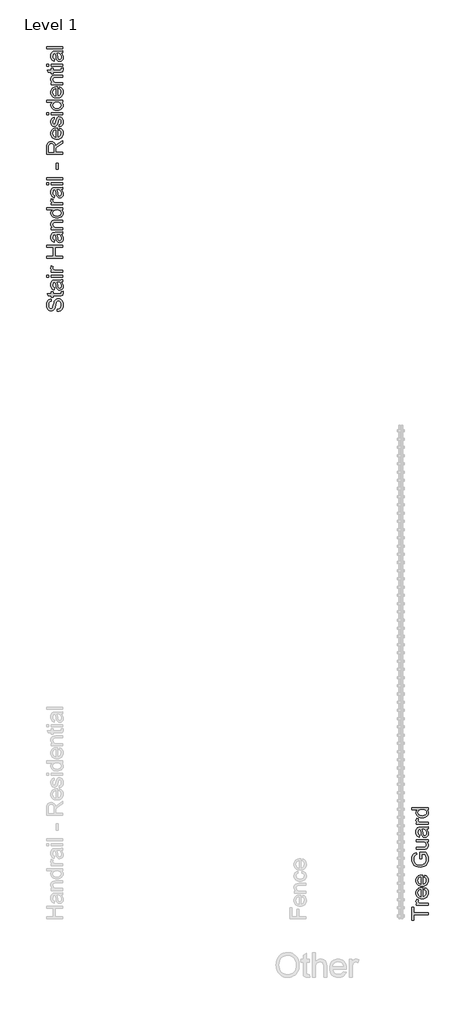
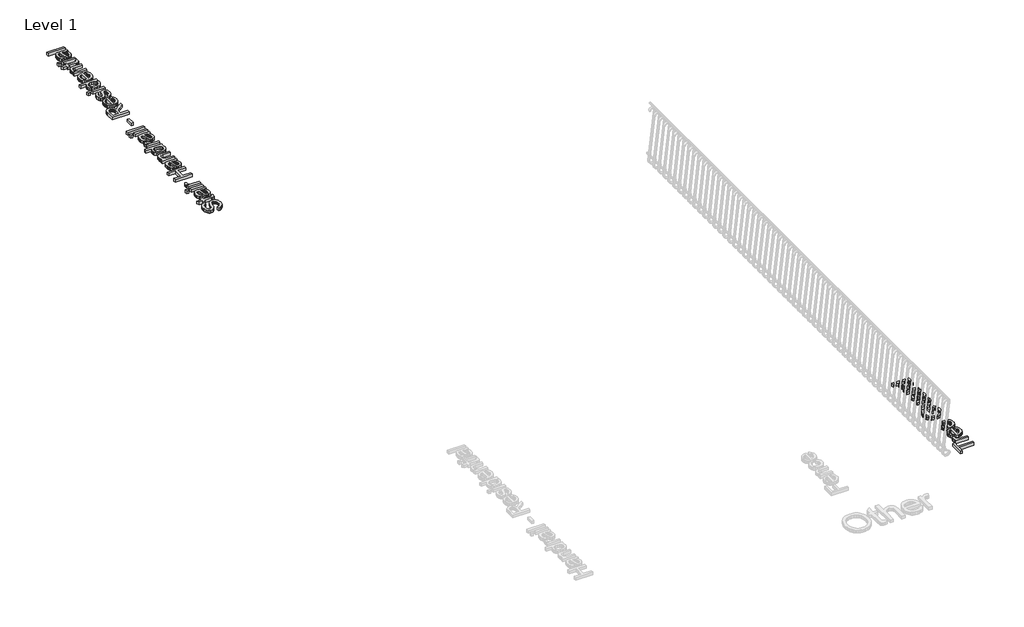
# One storey, part 14 of 14: 2 proxies.
"""IFC4 building model written with IfcOpenShell, lengths in millimetres."""

from ifc_helpers import new_model, si_unit, origin, origin_with_axes, place, context, project, spatial, polyline, outline, extrude, element, save

model = new_model("IFC4")

# Units and contexts
model_context = context("Model", 3, world=origin())
ifc_project = project(units=[si_unit("LENGTHUNIT", "METRE", prefix="MILLI")], contexts=[model_context])

# Site, building, storey
site = spatial("IfcSite", under=ifc_project)
building = spatial("IfcBuilding", under=site)
storey = spatial("IfcBuildingStorey", under=building, Name="Level 1", Elevation=0.0)

# Proxies
placement = place(None, origin())
element("IfcBuildingElementProxy", 1, Name="12\" Arial", ObjectType="12\" Arial", at=placement, inside=storey, context=model_context, shape_type="SweptSolid", body=[
    extrude(outline(polyline([(10427.4066928, -14416.3411589), (10164.8097698, -14416.3411589), (10164.8097698, -14514.8150051), (10127.2959236, -14514.8150051), (10127.2959236, -14280.3534666), (10164.8097698, -14280.3534666), (10164.8097698, -14378.8273128), (10427.4066928, -14378.8273128), (10427.4066928, -14416.3411589)])), origin_with_axes(), (0.0, 0.0, 1.0), 50.8),
    extrude(outline(polyline([(10427.4066928, -14242.8396205), (10207.0128467, -14242.8396205), (10207.0128467, -14210.0150051), (10239.6176544, -14210.0150051), (10220.7141928, -14197.8889474), (10209.5772698, -14186.7153897), (10204.1370294, -14175.5051974), (10202.3236159, -14163.2692359), (10205.2177505, -14144.585582), (10213.9001544, -14125.6088513), (10247.5307313, -14138.1378897), (10241.7607794, -14151.3263513), (10239.8374621, -14164.5148128), (10241.6875102, -14175.7158464), (10247.2376544, -14185.7262551), (10256.0665967, -14193.8133464), (10267.753039, -14199.2444282), (10288.708039, -14203.8054378), (10311.568039, -14205.3257743), (10427.4066928, -14205.3257743), (10427.4066928, -14242.8396205)])), origin_with_axes(), (0.0, 0.0, 1.0), 50.8),
    extrude(outline(polyline([(10361.7574621, -13947.8576974), (10366.4466928, -13911.0765436), (10394.1607794, -13924.3291157), (10414.8776544, -13945.4764474), (10427.7913563, -13974.0422888), (10432.0959236, -14009.5503897), (10430.2390066, -14032.8271085), (10424.6682553, -14053.5668801), (10415.38367, -14071.7697046), (10402.3852505, -14087.435582), (10386.0347638, -14100.0333104), (10366.6939765, -14109.0316878), (10344.3628888, -14114.4307142), (10319.0415005, -14116.2303897), (10292.8614885, -14114.4123969), (10269.7862602, -14108.9584186), (10249.8158154, -14099.8684546), (10232.9501544, -14087.1425051), (10219.5510438, -14071.5178416), (10209.9802505, -14053.7317359), (10204.2377746, -14033.7841878), (10202.3236159, -14011.6751974), (10204.2331953, -13990.2782924), (10209.9619332, -13970.9283464), (10219.5098299, -13953.6253597), (10232.8768852, -13938.369332), (10249.7059116, -13925.9158525), (10269.6397217, -13917.0205099), (10292.6783154, -13911.6833044), (10318.8216928, -13909.9042359), (10328.9328467, -13910.1240436), (10328.9328467, -14078.7165436), (10357.0132794, -14072.223058), (10377.6568852, -14057.1387551), (10390.3507794, -14035.3686349), (10394.5820775, -14008.8176974), (10392.6221255, -13988.851832), (10386.7422698, -13972.0365436), (10376.576164, -13958.371832), (10361.7574621, -13947.8576974)]), holes=[polyline([(10291.4190005, -14078.7165436), (10291.4190005, -13947.418082), (10271.5996736, -13952.4919763), (10257.4220775, -13962.4382743), (10244.2336159, -13984.3091397), (10239.8374621, -14011.8217359), (10243.3452265, -14037.1087791), (10253.8685198, -14058.0179859), (10270.2716688, -14072.5527695), (10291.4190005, -14078.7165436)])]), origin_with_axes(), (0.0, 0.0, 1.0), 50.8),
    extrude(outline(polyline([(10361.7574621, -13718.0853897), (10366.4466928, -13681.3042359), (10394.1607794, -13694.556808), (10414.8776544, -13715.7041397), (10427.7913563, -13744.2699811), (10432.0959236, -13779.778082), (10430.2390066, -13803.0548008), (10424.6682553, -13823.7945724), (10415.38367, -13841.9973969), (10402.3852505, -13857.6632743), (10386.0347638, -13870.2610027), (10366.6939765, -13879.2593801), (10344.3628888, -13884.6584065), (10319.0415005, -13886.458082), (10292.8614885, -13884.6400892), (10269.7862602, -13879.1861109), (10249.8158154, -13870.0961469), (10232.9501544, -13857.3701974), (10219.5510438, -13841.7455339), (10209.9802505, -13823.9594282), (10204.2377746, -13804.0118801), (10202.3236159, -13781.9028897), (10204.2331953, -13760.5059847), (10209.9619332, -13741.1560388), (10219.5098299, -13723.853052), (10232.8768852, -13708.5970243), (10249.7059116, -13696.1435448), (10269.6397217, -13687.2482022), (10292.6783154, -13681.9109967), (10318.8216928, -13680.1319282), (10328.9328467, -13680.3517359), (10328.9328467, -13848.9442359), (10357.0132794, -13842.4507503), (10377.6568852, -13827.3664474), (10390.3507794, -13805.5963272), (10394.5820775, -13779.0453897), (10392.6221255, -13759.0795243), (10386.7422698, -13742.2642359), (10376.576164, -13728.5995243), (10361.7574621, -13718.0853897)]), holes=[polyline([(10291.4190005, -13848.9442359), (10291.4190005, -13717.6457743), (10271.5996736, -13722.7196686), (10257.4220775, -13732.6659666), (10244.2336159, -13754.536832), (10239.8374621, -13782.0494282), (10243.3452265, -13807.3364714), (10253.8685198, -13828.2456782), (10270.2716688, -13842.7804618), (10291.4190005, -13848.9442359)])]), origin_with_axes(), (0.0, 0.0, 1.0), 50.8),
    extrude(outline(polyline([(10310.1759236, -13380.0211589), (10272.6620775, -13380.0211589), (10272.6620775, -13258.1011589), (10384.8372698, -13258.1011589), (10405.4442409, -13287.7294041), (10420.2263082, -13318.291832), (10429.1285198, -13349.7151734), (10432.0959236, -13381.9261589), (10427.3792169, -13424.0101734), (10413.2290967, -13462.0460628), (10390.1401303, -13493.6434186), (10358.6068852, -13516.411832), (10320.7816448, -13530.1772888), (10278.8166928, -13534.7657743), (10236.5495053, -13530.1956061), (10197.2314044, -13516.4851013), (10164.2510919, -13494.2020964), (10140.9972698, -13463.9144282), (10127.2043371, -13427.0233705), (10122.6066928, -13384.9301974), (10125.2718611, -13354.0288993), (10133.2673659, -13326.2415436), (10146.0162121, -13302.841183), (10162.9414044, -13285.1008705), (10184.858063, -13271.9765195), (10212.5813082, -13262.4240436), (10222.3261159, -13297.0071205), (10202.5525823, -13304.7278657), (10187.6331352, -13314.1154859), (10176.3863082, -13326.5346205), (10167.6306352, -13343.3499089), (10161.998063, -13363.3982022), (10160.120539, -13385.5163513), (10162.1446015, -13411.4078657), (10168.216789, -13433.544332), (10177.5769332, -13451.8433224), (10189.4648659, -13466.2224089), (10218.3695775, -13485.5288513), (10246.6881352, -13494.3211589), (10277.278039, -13497.2519282), (10313.1524861, -13493.7258464), (10342.6708275, -13483.1476013), (10365.622414, -13465.8377455), (10381.7965967, -13442.116832), (10391.3857073, -13414.3569522), (10394.5820775, -13384.9301974), (10392.1733515, -13358.9470964), (10384.9471736, -13333.6051013), (10374.9917169, -13311.5968561), (10364.3951544, -13295.6150051), (10310.1759236, -13295.6150051), (10310.1759236, -13380.0211589)])), origin_with_axes(), (0.0, 0.0, 1.0), 50.8),
    extrude(outline(polyline([(10427.4066928, -13061.1534666), (10389.5265005, -13061.1534666), (10408.1506231, -13074.7265916), (10421.4535678, -13090.5344282), (10429.4353347, -13108.5769763), (10432.0959236, -13128.8542359), (10430.2275582, -13147.1257503), (10424.6224621, -13164.1333705), (10416.1965005, -13178.4025532), (10405.865539, -13188.4587551), (10378.243039, -13199.6323128), (10343.3668852, -13201.8303897), (10207.0128467, -13201.8303897), (10207.0128467, -13164.3165436), (10325.7090005, -13164.3165436), (10363.955539, -13162.0451974), (10376.7135438, -13156.5774811), (10386.4125582, -13147.2081782), (10392.5396977, -13134.5600772), (10394.5820775, -13119.2559666), (10392.4939044, -13103.0726253), (10386.2293852, -13087.9333705), (10376.365515, -13075.4501253), (10363.479289, -13067.2348128), (10345.830563, -13062.6738032), (10321.6791928, -13061.1534666), (10207.0128467, -13061.1534666), (10207.0128467, -13023.6396205), (10427.4066928, -13023.6396205), (10427.4066928, -13061.1534666)])), origin_with_axes(), (0.0, 0.0, 1.0), 50.8),
    extrude(outline(polyline([(10399.2713082, -12831.3811589), (10414.6395294, -12849.3046445), (10424.6957313, -12867.759332), (10430.2458755, -12887.1665195), (10432.0959236, -12907.9475051), (10427.6448178, -12939.2975772), (10414.2915005, -12962.4231782), (10394.0142409, -12976.6832022), (10368.7913082, -12981.4365436), (10353.239914, -12979.6414474), (10339.1172698, -12974.2561589), (10327.0278467, -12965.9492599), (10317.5761159, -12955.389332), (10305.2668852, -12929.1223128), (10299.6251544, -12896.6640436), (10293.6903467, -12858.3076013), (10286.7297698, -12831.6009666), (10278.3770775, -12831.3811589), (10261.6350582, -12833.9638993), (10250.6813082, -12841.7121205), (10242.5484236, -12859.0402936), (10239.8374621, -12883.1825051), (10241.6417169, -12905.5296205), (10247.0544813, -12921.1359666), (10257.06489, -12931.7783224), (10272.6620775, -12939.2334666), (10267.9728467, -12976.7473128), (10247.4574621, -12970.2355099), (10231.3382313, -12960.5181782), (10219.0106832, -12946.6886109), (10209.8703467, -12927.8401013), (10204.2102986, -12904.7877695), (10202.3236159, -12878.3467359), (10203.9904909, -12852.9864234), (10208.9911159, -12832.8831782), (10216.5103707, -12817.7256061), (10225.7331352, -12807.2023128), (10237.1356592, -12800.2234186), (10251.1941928, -12795.6990436), (10284.0188082, -12793.8673128), (10330.6913082, -12793.8673128), (10395.864289, -12791.9623128), (10427.4066928, -12784.4888513), (10427.4066928, -12822.0026974), (10399.2713082, -12831.3811589)]), holes=[polyline([(10324.2436159, -12831.3811589), (10335.7468852, -12891.9015436), (10341.8282313, -12924.1766397), (10351.7195775, -12938.7938513), (10366.1536159, -12943.9226974), (10377.3088563, -12941.129308), (10386.4491928, -12932.7491397), (10392.5488563, -12918.9653657), (10394.5820775, -12899.9611589), (10392.3382073, -12879.8121205), (10385.6065967, -12862.0076974), (10375.6877746, -12847.5736589), (10363.8822698, -12837.5357743), (10351.7195775, -12833.0846686), (10334.8676544, -12831.6009666), (10324.2436159, -12831.3811589)])]), origin_with_axes(), (0.0, 0.0, 1.0), 50.8),
    extrude(outline(polyline([(10427.4066928, -12742.2857743), (10207.0128467, -12742.2857743), (10207.0128467, -12709.4611589), (10239.6176544, -12709.4611589), (10220.7141928, -12697.3351013), (10209.5772698, -12686.1615436), (10204.1370294, -12674.9513513), (10202.3236159, -12662.7153897), (10205.2177505, -12644.0317359), (10213.9001544, -12625.0550051), (10247.5307313, -12637.5840436), (10241.7607794, -12650.7725051), (10239.8374621, -12663.9609666), (10241.6875102, -12675.1620003), (10247.2376544, -12685.1724089), (10256.0665967, -12693.2595003), (10267.753039, -12698.690582), (10288.708039, -12703.2515916), (10311.568039, -12704.7719282), (10427.4066928, -12704.7719282), (10427.4066928, -12742.2857743)])), origin_with_axes(), (0.0, 0.0, 1.0), 50.8),
    extrude(outline(polyline([(10427.4066928, -12465.6211589), (10392.0176544, -12465.6211589), (10409.5518972, -12476.8450892), (10422.0763563, -12490.4411109), (10429.5910318, -12506.4092239), (10432.0959236, -12524.7494282), (10428.4690967, -12549.0015436), (10417.5886159, -12571.2021205), (10400.2146496, -12589.9956782), (10377.1073659, -12604.0267359), (10349.2009477, -12612.7640916), (10317.4295775, -12615.6765436), (10286.0520294, -12612.993058), (10257.7151544, -12604.9426013), (10234.0308755, -12591.534332), (10216.6111159, -12572.7774089), (10205.8954909, -12550.0914234), (10202.3236159, -12524.8959666), (10204.8788803, -12506.5420243), (10212.5446736, -12490.3128897), (10224.2952265, -12476.5565916), (10239.1047698, -12465.6211589), (10127.2959236, -12465.6211589), (10127.2959236, -12428.1073128), (10427.4066928, -12428.1073128), (10427.4066928, -12465.6211589)]), holes=[polyline([(10317.283039, -12578.1626974), (10351.2158515, -12573.9313993), (10375.3489044, -12561.2375051), (10389.7737842, -12542.7919763), (10394.5820775, -12521.3057743), (10389.9935919, -12499.8287311), (10376.2281352, -12481.8502936), (10353.029265, -12469.6784426), (10320.140539, -12465.6211589), (10284.183664, -12469.7517118), (10259.2538082, -12482.1433705), (10244.6915486, -12500.5797407), (10239.8374621, -12522.8444282), (10244.4992169, -12544.5504378), (10258.4844813, -12562.3365436), (10282.5076303, -12574.2061589), (10317.283039, -12578.1626974)])]), origin_with_axes(), (0.0, 0.0, 1.0), 50.8),
])
element("IfcBuildingElementProxy", 2, Name="12\" Arial", ObjectType="12\" Arial", at=placement, inside=storey, context=model_context, shape_type="SweptSolid", body=[
    extrude(outline(polyline([(3548.154783, -3231.2378994), (3548.154783, -3193.7240533), (3568.9724032, -3189.419486), (3585.7052637, -3181.6346302), (3598.9853118, -3169.4902552), (3609.4444945, -3152.1071302), (3616.231057, -3130.8590533), (3618.4932445, -3107.1198225), (3616.7805762, -3086.2197744), (3611.6425714, -3067.9207841), (3603.5096868, -3053.0929235), (3592.8123791, -3042.6062648), (3580.5306243, -3036.3692216), (3567.6443984, -3034.2902071), (3555.0878839, -3035.8471783), (3544.2348791, -3040.5180917), (3534.9754801, -3050.0064571), (3527.199783, -3066.0157841), (3512.8756484, -3120.6379956), (3503.3964416, -3156.4941254), (3494.3751676, -3179.4365533), (3481.7545426, -3198.1110485), (3466.4595907, -3211.3453033), (3448.8200234, -3219.2309042), (3429.1655522, -3221.8594379), (3407.1939416, -3218.6081158), (3386.706033, -3208.8541494), (3369.3412253, -3192.8539812), (3356.7389176, -3170.8640533), (3349.0731243, -3144.4688129), (3346.5178599, -3115.2527071), (3349.1921868, -3083.6003994), (3357.2151676, -3055.9046302), (3370.4219464, -3033.1545341), (3388.6476676, -3016.3392456), (3410.756658, -3005.6968898), (3435.6132445, -3001.4655917), (3435.6132445, -3038.9794379), (3413.2294945, -3045.8667456), (3397.0736291, -3060.2275148), (3387.2921868, -3082.6662167), (3384.0317061, -3113.7873225), (3387.2555522, -3145.6411206), (3396.9270907, -3167.4936687), (3411.1596387, -3180.132611), (3428.0665137, -3184.3455917), (3442.4822349, -3181.3598706), (3454.0770907, -3172.4027071), (3464.4446868, -3151.2278994), (3475.0320907, -3111.1496302), (3485.0882926, -3069.7891494), (3493.862283, -3044.7677071), (3507.4720426, -3023.3822504), (3524.2690137, -3008.4628033), (3544.0700234, -2999.6979716), (3566.6918984, -2996.776361), (3589.8174993, -3000.1375869), (3611.5693022, -3010.2212648), (3630.2895907, -3026.6152552), (3644.3206484, -3048.9074187), (3653.0854801, -3075.7147985), (3656.0070907, -3105.6544379), (3652.8565137, -3142.4081158), (3643.404783, -3172.6591494), (3627.6152637, -3196.7555677), (3605.4513214, -3215.0453994), (3578.4516099, -3226.7867937), (3548.154783, -3231.2378994)])), origin_with_axes(), (0.0, 0.0, 1.0), 50.8),
    extrude(outline(polyline([(3620.0318984, -2865.4778994), (3652.4168984, -2860.7886687), (3656.0070907, -2888.8507841), (3654.4501195, -2906.8566975), (3649.7792061, -2920.2832841), (3642.5805041, -2929.7716494), (3633.4401676, -2935.9628994), (3617.7422349, -2939.3699187), (3590.8707445, -2940.5055917), (3468.4378599, -2940.5055917), (3468.4378599, -2968.6409764), (3430.9240137, -2968.6409764), (3430.9240137, -2940.5055917), (3377.3642061, -2940.5055917), (3355.3101676, -2902.9917456), (3430.9240137, -2902.9917456), (3430.9240137, -2865.4778994), (3468.4378599, -2865.4778994), (3468.4378599, -2902.9917456), (3589.7717061, -2902.9917456), (3609.114783, -2901.0134764), (3615.9654561, -2894.6024187), (3618.4932445, -2881.8169379), (3620.0318984, -2865.4778994)])), origin_with_axes(), (0.0, 0.0, 1.0), 50.8),
    extrude(outline(polyline([(3623.1824753, -2687.2871302), (3638.5506964, -2705.2106158), (3648.6068984, -2723.6653033), (3654.1570426, -2743.0724908), (3656.0070907, -2763.8534764), (3651.5559849, -2795.2035485), (3638.2026676, -2818.3291494), (3617.925408, -2832.5891735), (3592.7024753, -2837.3425148), (3577.1510811, -2835.5474187), (3563.0284368, -2830.1621302), (3550.9390137, -2821.8552312), (3541.487283, -2811.2953033), (3529.1780522, -2785.0282841), (3523.5363214, -2752.5700148), (3517.6015137, -2714.2135725), (3510.6409368, -2687.5069379), (3502.2882445, -2687.2871302), (3485.5462253, -2689.8698706), (3474.5924753, -2697.6180917), (3466.4595907, -2714.9462648), (3463.7486291, -2739.0884764), (3465.5528839, -2761.4355917), (3470.9656484, -2777.0419379), (3480.976057, -2787.6842937), (3496.5732445, -2795.1394379), (3491.8840137, -2832.6532841), (3471.3686291, -2826.1414812), (3455.2493984, -2816.4241494), (3442.9218503, -2802.5945821), (3433.7815137, -2783.7460725), (3428.1214657, -2760.6937408), (3426.234783, -2734.2527071), (3427.901658, -2708.8923946), (3432.902283, -2688.7891494), (3440.4215378, -2673.6315773), (3449.6443022, -2663.1082841), (3461.0468262, -2656.1293898), (3475.1053599, -2651.6050148), (3507.9299753, -2649.7732841), (3554.6024753, -2649.7732841), (3619.7754561, -2647.8682841), (3651.3178599, -2640.3948225), (3651.3178599, -2677.9086687), (3623.1824753, -2687.2871302)]), holes=[polyline([(3548.154783, -2687.2871302), (3559.6580522, -2747.8075148), (3565.7393984, -2780.082611), (3575.6307445, -2794.6998225), (3590.064783, -2799.8286687), (3601.2200234, -2797.0352792), (3610.3603599, -2788.655111), (3616.4600234, -2774.8713369), (3618.4932445, -2755.8671302), (3616.2493743, -2735.7180917), (3609.5177637, -2717.9136687), (3599.5989416, -2703.4796302), (3587.7934368, -2693.4417456), (3575.6307445, -2688.9906398), (3558.7788214, -2687.5069379), (3548.154783, -2687.2871302)])]), origin_with_axes(), (0.0, 0.0, 1.0), 50.8),
    extrude(outline(polyline([(3388.7209368, -2598.1917456), (3351.2070907, -2598.1917456), (3351.2070907, -2560.6778994), (3388.7209368, -2560.6778994), (3388.7209368, -2598.1917456)])), origin_with_axes(), (0.0, 0.0, 1.0), 50.8),
    extrude(outline(polyline([(3651.3178599, -2598.1917456), (3430.9240137, -2598.1917456), (3430.9240137, -2560.6778994), (3651.3178599, -2560.6778994), (3651.3178599, -2598.1917456)])), origin_with_axes(), (0.0, 0.0, 1.0), 50.8),
    extrude(outline(polyline([(3651.3178599, -2504.4071302), (3430.9240137, -2504.4071302), (3430.9240137, -2471.5825148), (3463.5288214, -2471.5825148), (3444.6253599, -2459.4564571), (3433.4884368, -2448.2828994), (3428.0481964, -2437.0727071), (3426.234783, -2424.8367456), (3429.1289176, -2406.1530917), (3437.8113214, -2387.176361), (3471.4418984, -2399.7053994), (3465.6719464, -2412.893861), (3463.7486291, -2426.0823225), (3465.5986772, -2437.2833562), (3471.1488214, -2447.2937648), (3479.9777637, -2455.3808562), (3491.6642061, -2460.8119379), (3512.6192061, -2465.3729475), (3535.4792061, -2466.8932841), (3651.3178599, -2466.8932841), (3651.3178599, -2504.4071302)])), origin_with_axes(), (0.0, 0.0, 1.0), 50.8),
    extrude(outline(polyline([(3651.3178599, -2241.8102071), (3351.2070907, -2241.8102071), (3351.2070907, -2204.296361), (3473.1270907, -2204.296361), (3473.1270907, -2044.8625148), (3351.2070907, -2044.8625148), (3351.2070907, -2007.3486687), (3651.3178599, -2007.3486687), (3651.3178599, -2044.8625148), (3510.6409368, -2044.8625148), (3510.6409368, -2204.296361), (3651.3178599, -2204.296361), (3651.3178599, -2241.8102071)])), origin_with_axes(), (0.0, 0.0, 1.0), 50.8),
    extrude(outline(polyline([(3623.1824753, -1805.7117456), (3638.5506964, -1823.6352312), (3648.6068984, -1842.0899187), (3654.1570426, -1861.4971062), (3656.0070907, -1882.2780917), (3651.5559849, -1913.6281639), (3638.2026676, -1936.7537648), (3617.925408, -1951.0137889), (3592.7024753, -1955.7671302), (3577.1510811, -1953.9720341), (3563.0284368, -1948.5867456), (3550.9390137, -1940.2798466), (3541.487283, -1929.7199187), (3529.1780522, -1903.4528994), (3523.5363214, -1870.9946302), (3517.6015137, -1832.6381879), (3510.6409368, -1805.9315533), (3502.2882445, -1805.7117456), (3485.5462253, -1808.294486), (3474.5924753, -1816.0427071), (3466.4595907, -1833.3708802), (3463.7486291, -1857.5130917), (3465.5528839, -1879.8602071), (3470.9656484, -1895.4665533), (3480.976057, -1906.1089091), (3496.5732445, -1913.5640533), (3491.8840137, -1951.0778994), (3471.3686291, -1944.5660966), (3455.2493984, -1934.8487648), (3442.9218503, -1921.0191975), (3433.7815137, -1902.1706879), (3428.1214657, -1879.1183562), (3426.234783, -1852.6773225), (3427.901658, -1827.31701), (3432.902283, -1807.2137648), (3440.4215378, -1792.0561927), (3449.6443022, -1781.5328994), (3461.0468262, -1774.5540052), (3475.1053599, -1770.0296302), (3507.9299753, -1768.1978994), (3554.6024753, -1768.1978994), (3619.7754561, -1766.2928994), (3651.3178599, -1758.8194379), (3651.3178599, -1796.3332841), (3623.1824753, -1805.7117456)]), holes=[polyline([(3548.154783, -1805.7117456), (3559.6580522, -1866.2321302), (3565.7393984, -1898.5072264), (3575.6307445, -1913.1244379), (3590.064783, -1918.2532841), (3601.2200234, -1915.4598946), (3610.3603599, -1907.0797264), (3616.4600234, -1893.2959523), (3618.4932445, -1874.2917456), (3616.2493743, -1854.1427071), (3609.5177637, -1836.3382841), (3599.5989416, -1821.9042456), (3587.7934368, -1811.866361), (3575.6307445, -1807.4152552), (3558.7788214, -1805.9315533), (3548.154783, -1805.7117456)])]), origin_with_axes(), (0.0, 0.0, 1.0), 50.8),
    extrude(outline(polyline([(3651.3178599, -1716.616361), (3430.9240137, -1716.616361), (3430.9240137, -1679.1025148), (3461.6970907, -1679.1025148), (3446.1823311, -1666.0697504), (3435.1003599, -1650.417611), (3428.4511772, -1632.1460966), (3426.234783, -1611.2552071), (3428.0207205, -1592.763885), (3433.378533, -1575.8295341), (3441.6396387, -1561.7068898), (3452.1354561, -1551.6506879), (3479.7213214, -1540.403861), (3515.9895907, -1538.4255917), (3651.3178599, -1538.4255917), (3651.3178599, -1575.9394379), (3521.0451676, -1575.9394379), (3487.8542061, -1580.2623225), (3477.9720186, -1586.2429235), (3470.3062253, -1595.5389571), (3465.3880282, -1607.4543658), (3463.7486291, -1621.2930917), (3467.430408, -1643.2647023), (3478.4757445, -1661.9941494), (3487.4924392, -1669.4790593), (3499.815408, -1674.8254235), (3534.3801676, -1679.1025148), (3651.3178599, -1679.1025148), (3651.3178599, -1716.616361)])), origin_with_axes(), (0.0, 0.0, 1.0), 50.8),
    extrude(outline(polyline([(3651.3178599, -1350.856361), (3615.9288214, -1350.856361), (3633.4630642, -1362.0802913), (3645.9875234, -1375.6763129), (3653.5021988, -1391.6444259), (3656.0070907, -1409.9846302), (3652.3802637, -1434.2367456), (3641.499783, -1456.4373225), (3624.1258166, -1475.2308802), (3601.018533, -1489.2619379), (3573.1121147, -1497.9992937), (3541.3407445, -1500.9117456), (3509.9631964, -1498.22826), (3481.6263214, -1490.1778033), (3457.9420426, -1476.7695341), (3440.522283, -1458.012611), (3429.806658, -1435.3266254), (3426.234783, -1410.1311687), (3428.7900474, -1391.7772264), (3436.4558407, -1375.5480917), (3448.2063936, -1361.7917937), (3463.0159368, -1350.856361), (3351.2070907, -1350.856361), (3351.2070907, -1313.3425148), (3651.3178599, -1313.3425148), (3651.3178599, -1350.856361)]), holes=[polyline([(3541.1942061, -1463.3978994), (3575.1270186, -1459.1666014), (3599.2600714, -1446.4727071), (3613.6849512, -1428.0271783), (3618.4932445, -1406.5409764), (3613.9047589, -1385.0639331), (3600.1393022, -1367.0854956), (3576.940432, -1354.9136446), (3544.0517061, -1350.856361), (3508.0948311, -1354.9869139), (3483.1649753, -1367.3785725), (3468.6027157, -1385.8149427), (3463.7486291, -1408.0796302), (3468.4103839, -1429.7856398), (3482.3956484, -1447.5717456), (3506.4187974, -1459.441361), (3541.1942061, -1463.3978994)])]), origin_with_axes(), (0.0, 0.0, 1.0), 50.8),
    extrude(outline(polyline([(3651.3178599, -1257.0717456), (3430.9240137, -1257.0717456), (3430.9240137, -1224.2471302), (3463.5288214, -1224.2471302), (3444.6253599, -1212.1210725), (3433.4884368, -1200.9475148), (3428.0481964, -1189.7373225), (3426.234783, -1177.501361), (3429.1289176, -1158.8177071), (3437.8113214, -1139.8409764), (3471.4418984, -1152.3700148), (3465.6719464, -1165.5584764), (3463.7486291, -1178.7469379), (3465.5986772, -1189.9479716), (3471.1488214, -1199.9583802), (3479.9777637, -1208.0454716), (3491.6642061, -1213.4765533), (3512.6192061, -1218.0375629), (3535.4792061, -1219.5578994), (3651.3178599, -1219.5578994), (3651.3178599, -1257.0717456)])), origin_with_axes(), (0.0, 0.0, 1.0), 50.8),
    extrude(outline(polyline([(3623.1824753, -975.7178994), (3638.5506964, -993.641385), (3648.6068984, -1012.0960725), (3654.1570426, -1031.50326), (3656.0070907, -1052.2842456), (3651.5559849, -1083.6343177), (3638.2026676, -1106.7599187), (3617.925408, -1121.0199427), (3592.7024753, -1125.7732841), (3577.1510811, -1123.9781879), (3563.0284368, -1118.5928994), (3550.9390137, -1110.2860004), (3541.487283, -1099.7260725), (3529.1780522, -1073.4590533), (3523.5363214, -1041.0007841), (3517.6015137, -1002.6443417), (3510.6409368, -975.9377071), (3502.2882445, -975.7178994), (3485.5462253, -978.3006398), (3474.5924753, -986.048861), (3466.4595907, -1003.3770341), (3463.7486291, -1027.5192456), (3465.5528839, -1049.866361), (3470.9656484, -1065.4727071), (3480.976057, -1076.1150629), (3496.5732445, -1083.5702071), (3491.8840137, -1121.0840533), (3471.3686291, -1114.5722504), (3455.2493984, -1104.8549187), (3442.9218503, -1091.0253514), (3433.7815137, -1072.1768417), (3428.1214657, -1049.12451), (3426.234783, -1022.6834764), (3427.901658, -997.3231639), (3432.902283, -977.2199187), (3440.4215378, -962.0623466), (3449.6443022, -951.5390533), (3461.0468262, -944.5601591), (3475.1053599, -940.0357841), (3507.9299753, -938.2040533), (3554.6024753, -938.2040533), (3619.7754561, -936.2990533), (3651.3178599, -928.8255917), (3651.3178599, -966.3394379), (3623.1824753, -975.7178994)]), holes=[polyline([(3548.154783, -975.7178994), (3559.6580522, -1036.2382841), (3565.7393984, -1068.5133802), (3575.6307445, -1083.1305917), (3590.064783, -1088.2594379), (3601.2200234, -1085.4660485), (3610.3603599, -1077.0858802), (3616.4600234, -1063.3021062), (3618.4932445, -1044.2978994), (3616.2493743, -1024.148861), (3609.5177637, -1006.3444379), (3599.5989416, -991.9103994), (3587.7934368, -981.8725148), (3575.6307445, -977.4214091), (3558.7788214, -975.9377071), (3548.154783, -975.7178994)])]), origin_with_axes(), (0.0, 0.0, 1.0), 50.8),
    extrude(outline(polyline([(3388.7209368, -886.6225148), (3351.2070907, -886.6225148), (3351.2070907, -849.1086687), (3388.7209368, -849.1086687), (3388.7209368, -886.6225148)])), origin_with_axes(), (0.0, 0.0, 1.0), 50.8),
    extrude(outline(polyline([(3651.3178599, -886.6225148), (3430.9240137, -886.6225148), (3430.9240137, -849.1086687), (3651.3178599, -849.1086687), (3651.3178599, -886.6225148)])), origin_with_axes(), (0.0, 0.0, 1.0), 50.8),
    extrude(outline(polyline([(3651.3178599, -792.8378994), (3351.2070907, -792.8378994), (3351.2070907, -755.3240533), (3651.3178599, -755.3240533), (3651.3178599, -792.8378994)])), origin_with_axes(), (0.0, 0.0, 1.0), 50.8),
    extrude(outline(polyline([(3562.2224753, -600.5794379), (3524.7086291, -600.5794379), (3524.7086291, -483.3486687), (3562.2224753, -483.3486687), (3562.2224753, -600.5794379)])), origin_with_axes(), (0.0, 0.0, 1.0), 50.8),
    extrude(outline(polyline([(3651.3178599, -319.2255917), (3351.2070907, -319.2255917), (3351.2070907, -189.9053994), (3353.2311532, -155.1483081), (3359.3033407, -129.8612648), (3370.513533, -111.3791014), (3387.9516099, -97.0366494), (3409.5751916, -87.8322023), (3433.3418984, -84.7640533), (3462.906033, -89.8471062), (3487.4145907, -105.0962648), (3497.4021027, -116.647617), (3505.3838695, -130.9694619), (3515.3301676, -167.9246302), (3531.3761291, -146.6032841), (3569.9890137, -116.1965533), (3651.3178599, -66.1536687), (3651.3178599, -109.748861), (3589.112283, -148.801361), (3547.9349753, -177.0100148), (3528.4819945, -196.8293417), (3521.3382445, -214.6703994), (3520.0193984, -236.431361), (3520.0193984, -281.7117456), (3651.3178599, -281.7117456), (3651.3178599, -319.2255917)]), holes=[polyline([(3482.5055522, -281.7117456), (3482.5055522, -197.7452071), (3481.1775474, -173.6304716), (3477.193533, -154.9193417), (3470.287908, -140.8333321), (3460.1950714, -130.5939571), (3447.9865859, -124.3569139), (3434.7340137, -122.2778994), (3416.4350234, -126.2435966), (3401.6895907, -138.1406879), (3391.9631003, -158.6102792), (3388.7209368, -188.2934764), (3388.7209368, -281.7117456), (3482.5055522, -281.7117456)])]), origin_with_axes(), (0.0, 0.0, 1.0), 50.8),
    extrude(outline(polyline([(3585.6686291, 130.5009467), (3590.3578599, 167.2821006), (3618.0719464, 154.0295284), (3638.7888214, 132.8821967), (3651.7025234, 104.3163554), (3656.0070907, 68.8082544), (3654.1501736, 45.5315357), (3648.5794224, 24.791764), (3639.2948371, 6.5889395), (3626.2964176, -9.0769379), (3609.9459308, -21.6746663), (3590.6051436, -30.6730437), (3568.2740558, -36.0720701), (3542.9526676, -37.8717456), (3516.7726556, -36.0537528), (3493.6974272, -30.5997744), (3473.7269825, -21.5098105), (3456.8613214, -8.783861), (3443.4622109, 6.8408025), (3433.8914176, 24.6269083), (3428.1489416, 44.5744563), (3426.234783, 66.6834467), (3428.1443623, 88.0803518), (3433.8731003, 107.4302977), (3443.4209969, 124.7332845), (3456.7880522, 139.9893121), (3473.6170786, 152.4427917), (3493.5508887, 161.3381342), (3516.5894825, 166.6753397), (3542.7328599, 168.4544083), (3552.8440137, 168.2346006), (3552.8440137, -0.3578994), (3580.9244464, 6.1355861), (3601.5680522, 21.219889), (3614.2619464, 42.9900092), (3618.4932445, 69.5409467), (3616.5332926, 89.5068121), (3610.6534368, 106.3221006), (3600.4873311, 119.9868121), (3585.6686291, 130.5009467)]), holes=[polyline([(3515.3301676, -0.3578994), (3515.3301676, 130.9405621), (3495.5108407, 125.8666679), (3481.3332445, 115.9203698), (3468.144783, 94.0495044), (3463.7486291, 66.5369083), (3467.2563936, 41.249865), (3477.7796868, 20.3406583), (3494.1828359, 5.8058746), (3515.3301676, -0.3578994)])]), origin_with_axes(), (0.0, 0.0, 1.0), 50.8),
    extrude(outline(polyline([(3585.6686291, 191.9005621), (3580.9793984, 229.4144083), (3597.0253599, 235.3308986), (3608.8217061, 246.7792159), (3616.0753599, 263.8326294), (3618.4932445, 286.5644083), (3616.2768503, 309.0214275), (3609.6276676, 324.8109467), (3599.9927637, 334.1527736), (3588.8192061, 337.2667159), (3579.2575714, 334.1344563), (3571.967283, 324.7376775), (3561.2699753, 286.1247929), (3542.916033, 229.6342159), (3533.6932686, 215.3375573), (3521.484783, 204.9791198), (3507.0690618, 198.6871246), (3491.2245907, 196.5897929), (3476.689807, 198.2749852), (3463.2723791, 203.3305621), (3451.5035089, 211.2985909), (3441.9143984, 221.721139), (3430.8141099, 245.5702736), (3426.234783, 277.8453698), (3428.0756724, 302.2623409), (3433.5983407, 323.4921006), (3442.2624272, 340.5638313), (3453.5275714, 352.5067159), (3468.2272109, 360.4197929), (3487.194783, 365.4021006), (3491.8840137, 327.8882544), (3480.0785089, 323.1532304), (3471.1854561, 313.7839275), (3465.6078359, 299.6887592), (3463.7486291, 280.776139), (3465.525408, 259.2349852), (3470.8557445, 244.8742159), (3478.5490137, 236.7962833), (3487.4145907, 234.103639), (3498.3317061, 238.5730621), (3506.6111291, 252.5674852), (3514.5974753, 284.8792159), (3532.2553599, 339.9410429), (3540.6996387, 354.4849852), (3552.2578599, 365.5120044), (3566.966658, 372.4634227), (3584.8626676, 374.7805621), (3603.3631484, 372.0604419), (3620.7645907, 363.9000813), (3635.7023551, 350.6108746), (3646.8118022, 332.5042159), (3653.7082686, 310.6333506), (3656.0070907, 286.0515236), (3651.5743022, 248.2262833), (3638.2759368, 220.6221006), (3616.258533, 202.194889), (3585.6686291, 191.9005621)])), origin_with_axes(), (0.0, 0.0, 1.0), 50.8),
    extrude(outline(polyline([(3388.7209368, 416.983639), (3351.2070907, 416.983639), (3351.2070907, 454.4974852), (3388.7209368, 454.4974852), (3388.7209368, 416.983639)])), origin_with_axes(), (0.0, 0.0, 1.0), 50.8),
    extrude(outline(polyline([(3651.3178599, 416.983639), (3430.9240137, 416.983639), (3430.9240137, 454.4974852), (3651.3178599, 454.4974852), (3651.3178599, 416.983639)])), origin_with_axes(), (0.0, 0.0, 1.0), 50.8),
    extrude(outline(polyline([(3651.3178599, 646.7559467), (3615.9288214, 646.7559467), (3633.4630642, 635.5320164), (3645.9875234, 621.9359948), (3653.5021988, 605.9678818), (3656.0070907, 587.6276775), (3652.3802637, 563.3755621), (3641.499783, 541.1749852), (3624.1258166, 522.3814275), (3601.018533, 508.3503698), (3573.1121147, 499.613014), (3541.3407445, 496.7005621), (3509.9631964, 499.3840477), (3481.6263214, 507.4345044), (3457.9420426, 520.8427736), (3440.522283, 539.5996967), (3429.806658, 562.2856823), (3426.234783, 587.481139), (3428.7900474, 605.8350813), (3436.4558407, 622.0642159), (3448.2063936, 635.820514), (3463.0159368, 646.7559467), (3351.2070907, 646.7559467), (3351.2070907, 684.2697929), (3651.3178599, 684.2697929), (3651.3178599, 646.7559467)]), holes=[polyline([(3541.1942061, 534.2144083), (3575.1270186, 538.4457063), (3599.2600714, 551.1396006), (3613.6849512, 569.5851294), (3618.4932445, 591.0713313), (3613.9047589, 612.5483746), (3600.1393022, 630.5268121), (3576.940432, 642.6986631), (3544.0517061, 646.7559467), (3508.0948311, 642.6253938), (3483.1649753, 630.2337352), (3468.6027157, 611.797365), (3463.7486291, 589.5326775), (3468.4103839, 567.8266679), (3482.3956484, 550.0405621), (3506.4187974, 538.1709467), (3541.1942061, 534.2144083)])]), origin_with_axes(), (0.0, 0.0, 1.0), 50.8),
    extrude(outline(polyline([(3585.6686291, 894.8455621), (3590.3578599, 931.6267159), (3618.0719464, 918.3741438), (3638.7888214, 897.2268121), (3651.7025234, 868.6609708), (3656.0070907, 833.1528698), (3654.1501736, 809.876151), (3648.5794224, 789.1363794), (3639.2948371, 770.9335549), (3626.2964176, 755.2676775), (3609.9459308, 742.6699491), (3590.6051436, 733.6715717), (3568.2740558, 728.2725453), (3542.9526676, 726.4728698), (3516.7726556, 728.2908626), (3493.6974272, 733.7448409), (3473.7269825, 742.8348049), (3456.8613214, 755.5607544), (3443.4622109, 771.1854179), (3433.8914176, 788.9715236), (3428.1489416, 808.9190717), (3426.234783, 831.0280621), (3428.1443623, 852.4249671), (3433.8731003, 871.7749131), (3443.4209969, 889.0778998), (3456.7880522, 904.3339275), (3473.6170786, 916.7874071), (3493.5508887, 925.6827496), (3516.5894825, 931.0199551), (3542.7328599, 932.7990236), (3552.8440137, 932.5792159), (3552.8440137, 763.9867159), (3580.9244464, 770.4802015), (3601.5680522, 785.5645044), (3614.2619464, 807.3346246), (3618.4932445, 833.8855621), (3616.5332926, 853.8514275), (3610.6534368, 870.6667159), (3600.4873311, 884.3314275), (3585.6686291, 894.8455621)]), holes=[polyline([(3515.3301676, 763.9867159), (3515.3301676, 895.2851775), (3495.5108407, 890.2112833), (3481.3332445, 880.2649852), (3468.144783, 858.3941198), (3463.7486291, 830.8815236), (3467.2563936, 805.5944804), (3477.7796868, 784.6852736), (3494.1828359, 770.15049), (3515.3301676, 763.9867159)])]), origin_with_axes(), (0.0, 0.0, 1.0), 50.8),
    extrude(outline(polyline([(3651.3178599, 970.3128698), (3430.9240137, 970.3128698), (3430.9240137, 1007.8267159), (3461.6970907, 1007.8267159), (3446.1823311, 1020.8594804), (3435.1003599, 1036.5116198), (3428.4511772, 1054.7831342), (3426.234783, 1075.6740236), (3428.0207205, 1094.1653458), (3433.378533, 1111.0996967), (3441.6396387, 1125.2223409), (3452.1354561, 1135.2785429), (3479.7213214, 1146.5253698), (3515.9895907, 1148.503639), (3651.3178599, 1148.503639), (3651.3178599, 1110.9897929), (3521.0451676, 1110.9897929), (3487.8542061, 1106.6669083), (3477.9720186, 1100.6863073), (3470.3062253, 1091.3902736), (3465.3880282, 1079.474865), (3463.7486291, 1065.636139), (3467.430408, 1043.6645284), (3478.4757445, 1024.9350813), (3487.4924392, 1017.4501715), (3499.815408, 1012.1038073), (3534.3801676, 1007.8267159), (3651.3178599, 1007.8267159), (3651.3178599, 970.3128698)])), origin_with_axes(), (0.0, 0.0, 1.0), 50.8),
    extrude(outline(polyline([(3620.0318984, 1279.8021006), (3652.4168984, 1284.4913313), (3656.0070907, 1256.4292159), (3654.4501195, 1238.4233025), (3649.7792061, 1224.9967159), (3642.5805041, 1215.5083506), (3633.4401676, 1209.3171006), (3617.7422349, 1205.9100813), (3590.8707445, 1204.7744083), (3468.4378599, 1204.7744083), (3468.4378599, 1176.6390236), (3430.9240137, 1176.6390236), (3430.9240137, 1204.7744083), (3377.3642061, 1204.7744083), (3355.3101676, 1242.2882544), (3430.9240137, 1242.2882544), (3430.9240137, 1279.8021006), (3468.4378599, 1279.8021006), (3468.4378599, 1242.2882544), (3589.7717061, 1242.2882544), (3609.114783, 1244.2665236), (3615.9654561, 1250.6775813), (3618.4932445, 1263.4630621), (3620.0318984, 1279.8021006)])), origin_with_axes(), (0.0, 0.0, 1.0), 50.8),
    extrude(outline(polyline([(3388.7209368, 1317.3159467), (3351.2070907, 1317.3159467), (3351.2070907, 1354.8297929), (3388.7209368, 1354.8297929), (3388.7209368, 1317.3159467)])), origin_with_axes(), (0.0, 0.0, 1.0), 50.8),
    extrude(outline(polyline([(3651.3178599, 1317.3159467), (3430.9240137, 1317.3159467), (3430.9240137, 1354.8297929), (3651.3178599, 1354.8297929), (3651.3178599, 1317.3159467)])), origin_with_axes(), (0.0, 0.0, 1.0), 50.8),
    extrude(outline(polyline([(3623.1824753, 1551.7774852), (3638.5506964, 1533.8539996), (3648.6068984, 1515.3993121), (3654.1570426, 1495.9921246), (3656.0070907, 1475.211139), (3651.5559849, 1443.8610669), (3638.2026676, 1420.7354659), (3617.925408, 1406.4754419), (3592.7024753, 1401.7221006), (3577.1510811, 1403.5171967), (3563.0284368, 1408.9024852), (3550.9390137, 1417.2093842), (3541.487283, 1427.7693121), (3529.1780522, 1454.0363313), (3523.5363214, 1486.4946006), (3517.6015137, 1524.8510429), (3510.6409368, 1551.5576775), (3502.2882445, 1551.7774852), (3485.5462253, 1549.1947448), (3474.5924753, 1541.4465236), (3466.4595907, 1524.1183506), (3463.7486291, 1499.976139), (3465.5528839, 1477.6290236), (3470.9656484, 1462.0226775), (3480.976057, 1451.3803217), (3496.5732445, 1443.9251775), (3491.8840137, 1406.4113313), (3471.3686291, 1412.9231342), (3455.2493984, 1422.6404659), (3442.9218503, 1436.4700333), (3433.7815137, 1455.3185429), (3428.1214657, 1478.3708746), (3426.234783, 1504.8119083), (3427.901658, 1530.1722208), (3432.902283, 1550.2754659), (3440.4215378, 1565.4330381), (3449.6443022, 1575.9563313), (3461.0468262, 1582.9352256), (3475.1053599, 1587.4596006), (3507.9299753, 1589.2913313), (3554.6024753, 1589.2913313), (3619.7754561, 1591.1963313), (3651.3178599, 1598.6697929), (3651.3178599, 1561.1559467), (3623.1824753, 1551.7774852)]), holes=[polyline([(3548.154783, 1551.7774852), (3559.6580522, 1491.2571006), (3565.7393984, 1458.9820044), (3575.6307445, 1444.3647929), (3590.064783, 1439.2359467), (3601.2200234, 1442.0293361), (3610.3603599, 1450.4095044), (3616.4600234, 1464.1932784), (3618.4932445, 1483.1974852), (3616.2493743, 1503.3465236), (3609.5177637, 1521.1509467), (3599.5989416, 1535.5849852), (3587.7934368, 1545.6228698), (3575.6307445, 1550.0739756), (3558.7788214, 1551.5576775), (3548.154783, 1551.7774852)])]), origin_with_axes(), (0.0, 0.0, 1.0), 50.8),
    extrude(outline(polyline([(3651.3178599, 1640.8728698), (3351.2070907, 1640.8728698), (3351.2070907, 1678.3867159), (3651.3178599, 1678.3867159), (3651.3178599, 1640.8728698)])), origin_with_axes(), (0.0, 0.0, 1.0), 50.8),
])

save(model, "model.ifc")
